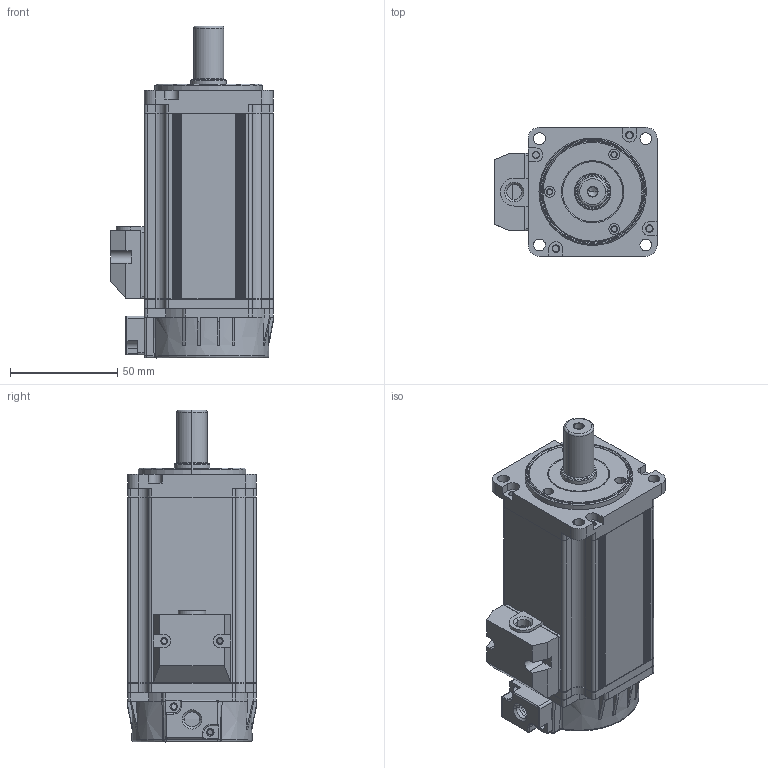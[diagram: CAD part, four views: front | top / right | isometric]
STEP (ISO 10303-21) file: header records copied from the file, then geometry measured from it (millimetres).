
FILE_DESCRIPTION((''),'2;1');
FILE_NAME('60-CB400W_ASM','2020-04-07T',('Administrator'),(''),'PRO/ENGINEER BY PARAMETRIC TECHNOLOGY CORPORATION, 2009440','PRO/ENGINEER BY PARAMETRIC TECHNOLOGY CORPORATION, 2009440','');
FILE_SCHEMA(('CONFIG_CONTROL_DESIGN'));
Length unit declared in the file: millimetre
Products named in the file (14): ML60-400W-JK; DYX-CT; DYX-YXH; ML60-400W-DZ_ASM; ML60-400W-CB; ML60-400-Z_ASM; ML60-QDG; 60-ZYG; GB-T9877-17X28X4; ML60-Q_ASM; 60-CB-H; 60-NKMF; XHX; 60-CB400W_ASM
Assembly tree (13 placements, depth 3):
  60-CB400W_ASM
    ML60-400W-DZ_ASM
      ML60-400W-JK
      DYX-CT
      DYX-YXH
    ML60-400-Z_ASM
      ML60-400W-CB
    ML60-Q_ASM
      ML60-QDG
      60-ZYG
      GB-T9877-17X28X4
    60-CB-H
    60-NKMF
    XHX
Bounding box: 75.5 x 60 x 154.5 mm (x, y, z)
Volume: 165590.3 mm3; surface area: 104068.6 mm2
Topology: 10 solids, 12 shells, 1196 faces, 3074 edges, 1959 vertices
Faces by surface type: plane 537, cylinder 419, cone 140, torus 89, sphere 6, bspline 5
Entity records: 37525 total; most frequent: CARTESIAN_POINT 7200, DIRECTION 6513, ORIENTED_EDGE 6132, EDGE_CURVE 3070, AXIS2_PLACEMENT_3D 2343, VERTEX_POINT 1959, VECTOR 1827, LINE 1827
